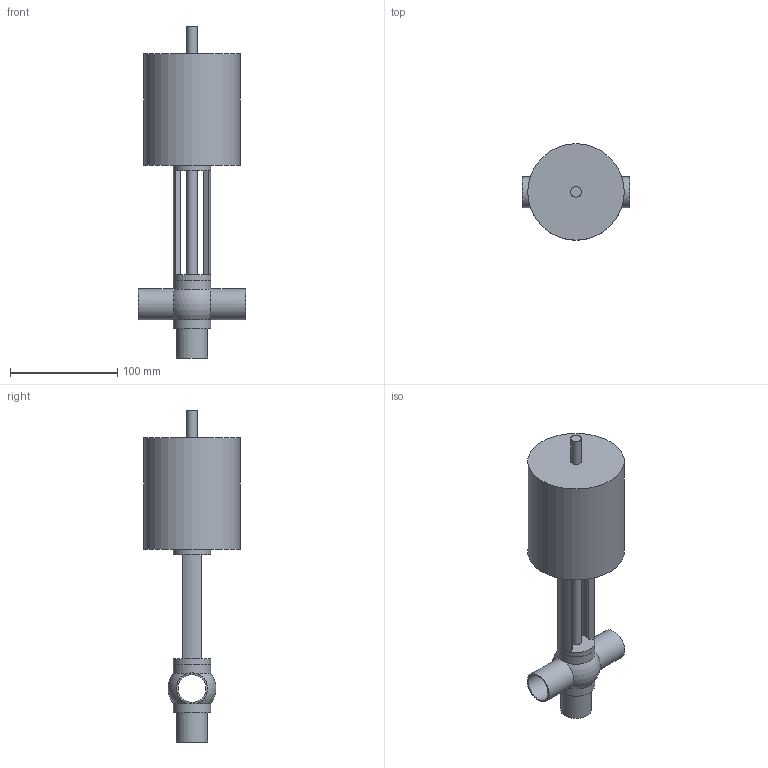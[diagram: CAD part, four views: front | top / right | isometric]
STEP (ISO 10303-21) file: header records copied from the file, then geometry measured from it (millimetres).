
FILE_DESCRIPTION(('FreeCAD Model'),'2;1');
FILE_NAME('/home/martin/Documents/proyect/valves/stp/valve_T_DN-25.step' ,'2018-01-12T21:55:40',('Author'),(''), 'Open CASCADE STEP processor 6.8','FreeCAD','Unknown');
FILE_SCHEMA(('AUTOMOTIVE_DESIGN_CC2 { 1 2 10303 214 -1 1 5 4 }'));
Length unit declared in the file: millimetre
Products named in the file (3): ASSEMBLY; valve_T_DN-25-body; valve_T_DN-25-head
Assembly tree (2 placements, depth 2):
  ASSEMBLY
    valve_T_DN-25-body
    valve_T_DN-25-head
Bounding box: 100 x 90 x 310 mm (x, y, z)
Volume: 727900.3 mm3; surface area: 82614.7 mm2
Topology: 2 solids, 2 shells, 37 faces, 88 edges, 56 vertices
Faces by surface type: cylinder 18, plane 16, sphere 3
Full cylindrical faces by diameter (mm): 10 x2, 26 x3, 29 x3, 35 x4, 90 x1
Entity records: 3403 total; most frequent: CARTESIAN_POINT 1441, DIRECTION 351, ORIENTED_EDGE 174, PCURVE 174, DEFINITIONAL_REPRESENTATION 174, LINE 144, VECTOR 144, AXIS2_PLACEMENT_3D 89
